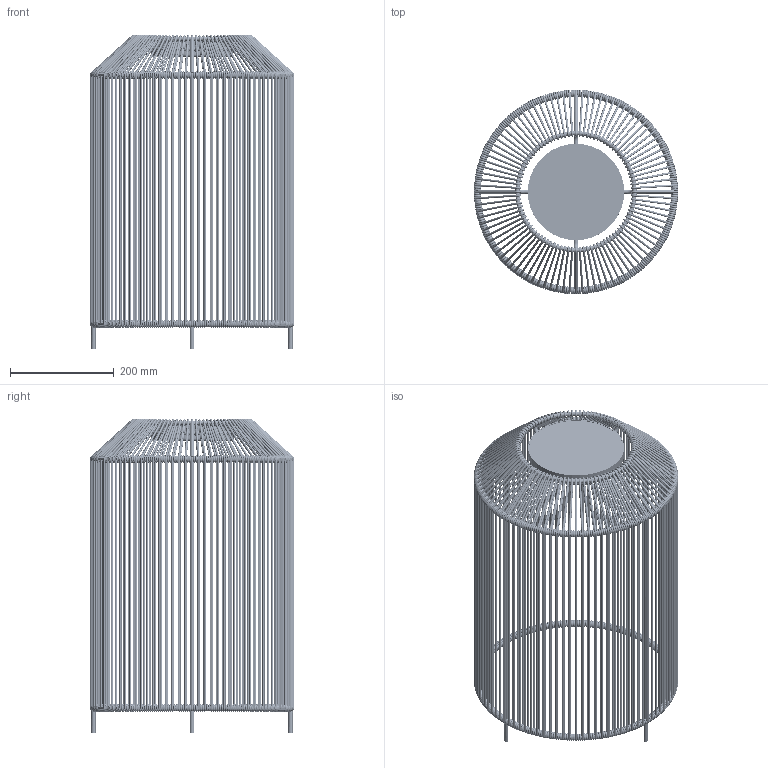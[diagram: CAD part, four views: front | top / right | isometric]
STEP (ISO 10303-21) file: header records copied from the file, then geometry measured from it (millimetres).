
FILE_DESCRIPTION(/* description */ (''),/* implementation_level */ '2;1');
FILE_NAME(/* name */ 'U:/01 COLLECTIE/02 OUTDOOR/01 Producten/Mora collection/3D/Vincentsheppard_Mora_Lamp_61cmHx40cmD.step',/* time_stamp */ '2021-11-24T10:35:04+01:00',/* author */ (''),/* organization */ (''),/* preprocessor_version */ 'ST-DEVELOPER v18.1',/* originating_system */ 'Autodesk Translation Framework v10.10.0.1391',/* authorisation */ '');
FILE_SCHEMA (('AUTOMOTIVE_DESIGN { 1 0 10303 214 3 1 1 }'));
Length unit declared in the file: millimetre
Products named in the file (1): Vincentsheppard_Mora_Lamp_61cmHx40cmD
Bounding box: 394 x 394 x 605 mm (x, y, z)
Volume: 2771040.4 mm3; surface area: 1911060.4 mm2
Topology: 1058 solids, 1058 shells, 1868 faces, 2647 edges, 1530 vertices
Faces by surface type: plane 776, torus 685, cylinder 407
Full cylindrical faces by diameter (mm): 4 x384, 8 x16, 160 x1, 182 x1, 186 x1
Entity records: 43052 total; most frequent: DIRECTION 8493, CARTESIAN_POINT 7282, ORIENTED_EDGE 5294, AXIS2_PLACEMENT_3D 4045, EDGE_CURVE 2647, CIRCLE 2164, EDGE_LOOP 1873, FACE_OUTER_BOUND 1868
